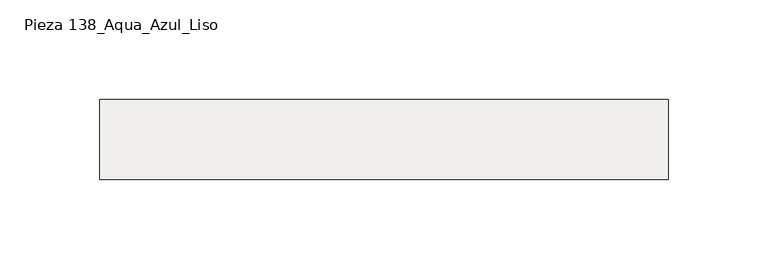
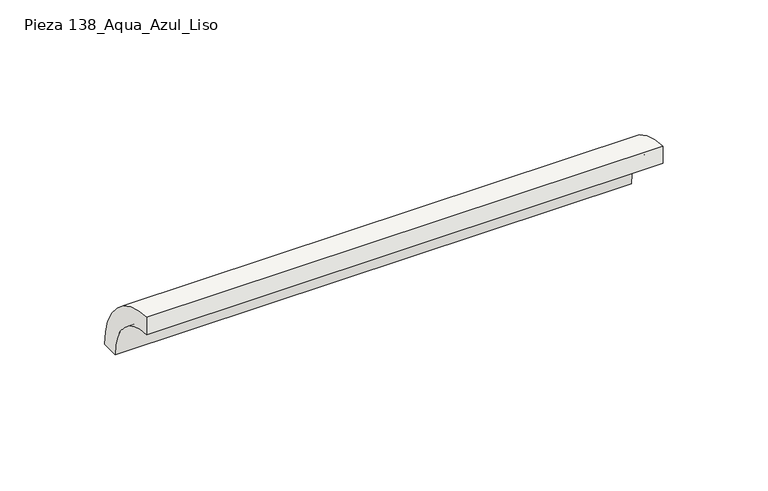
"""IFC4 building model written with IfcOpenShell, lengths in millimetres: slab geometry, ROSA GRES_138 : Pieza 138_Aqua_Azul_Liso."""

from ifc_helpers import new_model, si_unit, point, frame, frame_2d, origin, origin_2d, place, context, project, spatial, polyline, circle_curve, trimmed, segment, composite_curve, outline, extrude, source, transform, mapped, element, save


def pieza_138_aqua_azul_liso_98b1347a(model_context):
    return source(origin(), model_context, "Body", "SweptSolid", [
        extrude(outline(composite_curve([segment(trimmed(circle_curve(origin_2d(), 40.0), [point((0.0, 40.0))], [point((40.0, 0.0))], False, "CARTESIAN"), True, "CONTINUOUS"), segment(polyline([(40.0, 0.0), (30.0265886, 0.0)]), True, "CONTINUOUS"), segment(trimmed(circle_curve(frame_2d((0.0044453, 0.0044453)), 30.0221435), [point((30.0265886, 0.0))], [point((0.0, 30.0265886))], True, "CARTESIAN"), True, "CONTINUOUS"), segment(polyline([(0.0, 30.0265886), (0.0, 40.0)]), True, "CONTINUOUS")], self_intersect=False)), frame((0.0, 0.0, 0.0), z_axis=(1.0, 0.0, 0.0), x_axis=(0.0, 1.0, 0.0)), (0.0, 0.0, 1.0), 284.780426),
    ])


if __name__ == "__main__":
    model = new_model("IFC4")
    model_context = context("Model", 3, world=origin())
    ifc_project = project(units=[si_unit("LENGTHUNIT", "METRE", prefix="MILLI")], contexts=[model_context])
    site = spatial("IfcSite", under=ifc_project)
    building = spatial("IfcBuilding", under=site)
    placement = place(None, origin())
    pieza_138_aqua_azul_liso_shape = pieza_138_aqua_azul_liso_98b1347a(model_context)
    element("IfcSlab", 1, ObjectType="ROSA GRES_138 : Pieza 138_Aqua_Azul_Liso", at=placement, inside=building, context=model_context, shape_type="MappedRepresentation", body=[
        mapped(pieza_138_aqua_azul_liso_shape, transform((0.0, 0.0, 0.0), x_axis=(1.0, 0.0, 0.0), y_axis=(0.0, 1.0, 0.0), z_axis=(0.0, 0.0, 1.0))),
    ])
    save(model, "model.ifc")
